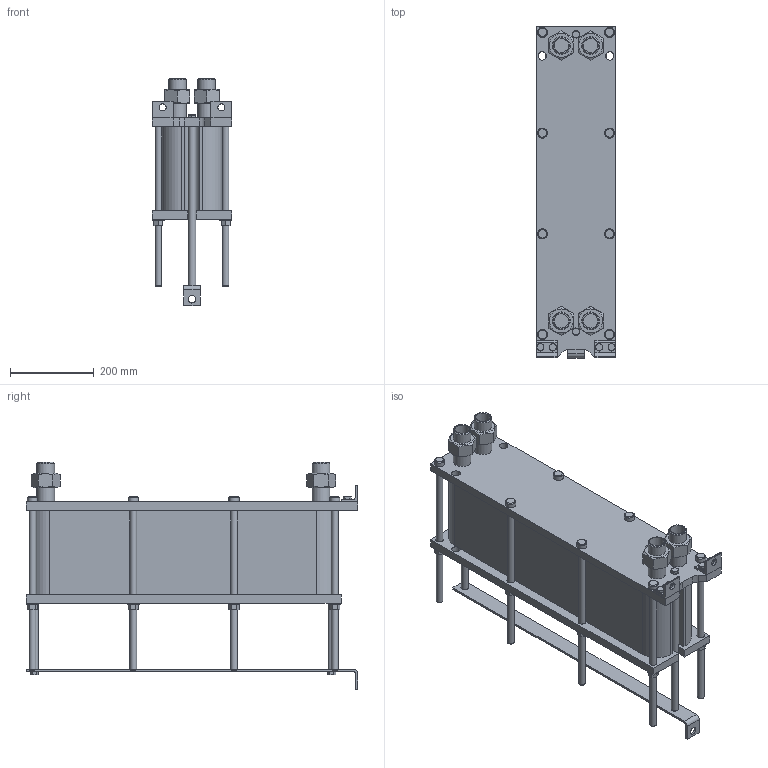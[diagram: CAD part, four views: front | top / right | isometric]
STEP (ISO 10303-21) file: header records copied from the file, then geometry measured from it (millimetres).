
FILE_DESCRIPTION(/* description */ (''),/* implementation_level */ '2;1');
FILE_NAME(/* name */ 'C:\Users\zhuro\Desktop\ENCO\TO\ЭН-008\ЭН-0,5-008-65-1.stp',/* time_stamp */ '2022-06-06T10:50:56+03:00',/* author */ ('zhuro'),/* organization */ (''),/* preprocessor_version */ 'ST-DEVELOPER v18.1',/* originating_system */ 'Autodesk Inventor 2022',/* authorisation */ '');
FILE_SCHEMA (('AUTOMOTIVE_DESIGN { 1 0 10303 214 3 1 1 }'));
Length unit declared in the file: millimetre
Products named in the file (1): ЭН-0,5-008-65-1
Bounding box: 190 x 790 x 541 mm (x, y, z)
Volume: 27363566.7 mm3; surface area: 1725465.7 mm2
Topology: 40 solids, 40 shells, 428 faces, 924 edges, 606 vertices
Faces by surface type: plane 273, cylinder 109, cone 40, torus 6
Full cylindrical faces by diameter (mm): 12 x6, 14 x2, 16 x20, 17 x8, 18 x19, 20 x5, 24 x8, 28 x8, 34.3 x8, 42.3 x8
Entity records: 15843 total; most frequent: CARTESIAN_POINT 5991, DIRECTION 1984, ORIENTED_EDGE 1848, EDGE_CURVE 924, AXIS2_PLACEMENT_3D 715, VERTEX_POINT 606, LINE 554, VECTOR 554
